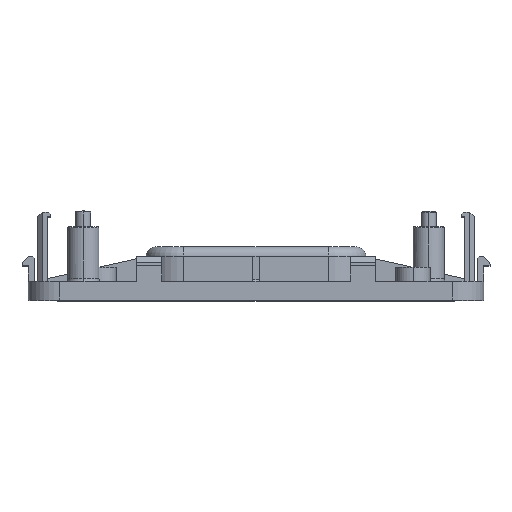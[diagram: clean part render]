
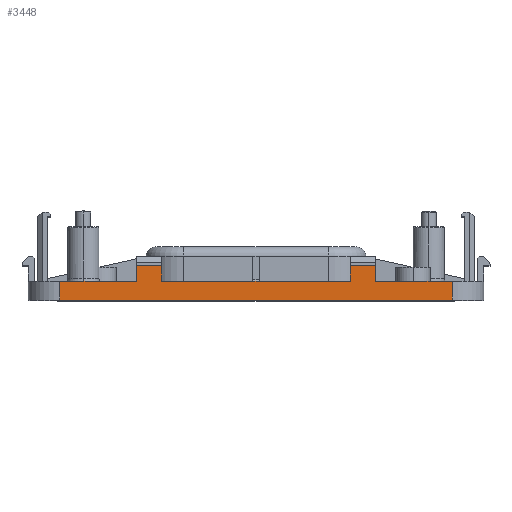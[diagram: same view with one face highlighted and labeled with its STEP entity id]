
A CAD part, top view. The second image highlights one B-rep face of the part: STEP entity #3448.
In plain terms, the highlighted planar face has unit normal (0, 0, 1).
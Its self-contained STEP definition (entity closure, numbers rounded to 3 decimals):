
#73 = VECTOR ( 'NONE', #6749, 1000. ) ;
#417 = CARTESIAN_POINT ( 'NONE',  ( 31.25, 1.5, 39.75 ) ) ;
#500 = EDGE_CURVE ( 'NONE', #6637, #5527, #6407, .T. ) ;
#1326 = CARTESIAN_POINT ( 'NONE',  ( -31.25, 3., 39.75 ) ) ;
#1389 = VECTOR ( 'NONE', #2110, 1000. ) ;
#1771 = LINE ( 'NONE', #9636, #8660 ) ;
#1778 = ORIENTED_EDGE ( 'NONE', *, *, #10224, .T. ) ;
#1842 = ORIENTED_EDGE ( 'NONE', *, *, #5565, .F. ) ;
#1959 = CARTESIAN_POINT ( 'NONE',  ( 19., 5.5, 39.75 ) ) ;
#1974 = EDGE_CURVE ( 'NONE', #6637, #8787, #6472, .T. ) ;
#1980 = PLANE ( 'NONE',  #4114 ) ;
#2017 = VECTOR ( 'NONE', #2154, 1000. ) ;
#2110 = DIRECTION ( 'NONE',  ( -1., 0., 0. ) ) ;
#2154 = DIRECTION ( 'NONE',  ( 0., 1., 0. ) ) ;
#2155 = ORIENTED_EDGE ( 'NONE', *, *, #6208, .T. ) ;
#2156 = CARTESIAN_POINT ( 'NONE',  ( -31.25, 0., 39.75 ) ) ;
#2257 = CARTESIAN_POINT ( 'NONE',  ( -19., 5.5, 39.75 ) ) ;
#2517 = CARTESIAN_POINT ( 'NONE',  ( -15., 1.5, 39.75 ) ) ;
#2607 = CARTESIAN_POINT ( 'NONE',  ( -31.25, 3., 39.75 ) ) ;
#2617 = CARTESIAN_POINT ( 'NONE',  ( 19., 3., 39.75 ) ) ;
#2779 = CARTESIAN_POINT ( 'NONE',  ( -15., 5.5, 39.75 ) ) ;
#2826 = ORIENTED_EDGE ( 'NONE', *, *, #8767, .T. ) ;
#2960 = FACE_OUTER_BOUND ( 'NONE', #3896, .T. ) ;
#3091 = VERTEX_POINT ( 'NONE', #8427 ) ;
#3093 = LINE ( 'NONE', #6271, #4371 ) ;
#3132 = LINE ( 'NONE', #6305, #2017 ) ;
#3239 = ORIENTED_EDGE ( 'NONE', *, *, #8583, .F. ) ;
#3435 = CARTESIAN_POINT ( 'NONE',  ( -19., 5.5, 39.75 ) ) ;
#3448 = ADVANCED_FACE ( 'NONE', ( #2960 ), #1980, .F. ) ;
#3468 = DIRECTION ( 'NONE',  ( 0., 1., 0. ) ) ;
#3479 = ORIENTED_EDGE ( 'NONE', *, *, #4954, .F. ) ;
#3546 = VECTOR ( 'NONE', #6747, 1000. ) ;
#3562 = VECTOR ( 'NONE', #7977, 1000. ) ;
#3565 = LINE ( 'NONE', #5958, #73 ) ;
#3590 = DIRECTION ( 'NONE',  ( 0., 0., -1. ) ) ;
#3616 = LINE ( 'NONE', #6057, #3546 ) ;
#3896 = EDGE_LOOP ( 'NONE', ( #1842, #1778, #4379, #3239, #7846, #9495, #2155, #3479, #7993, #4151, #2826, #6569 ) ) ;
#3936 = VECTOR ( 'NONE', #5690, 1000. ) ;
#4044 = CARTESIAN_POINT ( 'NONE',  ( -15., 3., 39.75 ) ) ;
#4083 = LINE ( 'NONE', #9036, #4714 ) ;
#4114 = AXIS2_PLACEMENT_3D ( 'NONE', #417, #3590, #5983 ) ;
#4151 = ORIENTED_EDGE ( 'NONE', *, *, #7663, .T. ) ;
#4371 = VECTOR ( 'NONE', #7107, 1000. ) ;
#4379 = ORIENTED_EDGE ( 'NONE', *, *, #8877, .F. ) ;
#4659 = VERTEX_POINT ( 'NONE', #9358 ) ;
#4714 = VECTOR ( 'NONE', #3468, 1000. ) ;
#4792 = DIRECTION ( 'NONE',  ( 1., 0., 0. ) ) ;
#4864 = LINE ( 'NONE', #2517, #3936 ) ;
#4923 = CARTESIAN_POINT ( 'NONE',  ( 15., 5.5, 39.75 ) ) ;
#4945 = CARTESIAN_POINT ( 'NONE',  ( 15., 3., 39.75 ) ) ;
#4954 = EDGE_CURVE ( 'NONE', #3091, #4659, #3565, .T. ) ;
#5410 = VECTOR ( 'NONE', #4792, 1000. ) ;
#5527 = VERTEX_POINT ( 'NONE', #8421 ) ;
#5565 = EDGE_CURVE ( 'NONE', #8095, #5800, #3093, .T. ) ;
#5690 = DIRECTION ( 'NONE',  ( 0., 1., 0. ) ) ;
#5771 = VECTOR ( 'NONE', #9859, 1000. ) ;
#5786 = CARTESIAN_POINT ( 'NONE',  ( -31.25, 1.5, 39.75 ) ) ;
#5800 = VERTEX_POINT ( 'NONE', #4945 ) ;
#5958 = CARTESIAN_POINT ( 'NONE',  ( 31.25, 1.5, 39.75 ) ) ;
#5983 = DIRECTION ( 'NONE',  ( -1., 0., 0. ) ) ;
#6057 = CARTESIAN_POINT ( 'NONE',  ( 31.25, 0., 39.75 ) ) ;
#6208 = EDGE_CURVE ( 'NONE', #8787, #4659, #3616, .T. ) ;
#6271 = CARTESIAN_POINT ( 'NONE',  ( -31.25, 3., 39.75 ) ) ;
#6305 = CARTESIAN_POINT ( 'NONE',  ( 19., 1.5, 39.75 ) ) ;
#6407 = LINE ( 'NONE', #2607, #5410 ) ;
#6472 = LINE ( 'NONE', #5786, #5771 ) ;
#6569 = ORIENTED_EDGE ( 'NONE', *, *, #7698, .F. ) ;
#6637 = VERTEX_POINT ( 'NONE', #1326 ) ;
#6747 = DIRECTION ( 'NONE',  ( 1., 0., 0. ) ) ;
#6749 = DIRECTION ( 'NONE',  ( 0., -1., 0. ) ) ;
#6800 = LINE ( 'NONE', #1959, #1389 ) ;
#7044 = LINE ( 'NONE', #2257, #3562 ) ;
#7107 = DIRECTION ( 'NONE',  ( 1., 0., 0. ) ) ;
#7582 = CARTESIAN_POINT ( 'NONE',  ( -31.25, 3., 39.75 ) ) ;
#7663 = EDGE_CURVE ( 'NONE', #7763, #8536, #3132, .T. ) ;
#7698 = EDGE_CURVE ( 'NONE', #5800, #8613, #1771, .T. ) ;
#7763 = VERTEX_POINT ( 'NONE', #2617 ) ;
#7846 = ORIENTED_EDGE ( 'NONE', *, *, #500, .F. ) ;
#7977 = DIRECTION ( 'NONE',  ( 1., 0., 0. ) ) ;
#7990 = CARTESIAN_POINT ( 'NONE',  ( 19., 5.5, 39.75 ) ) ;
#7993 = ORIENTED_EDGE ( 'NONE', *, *, #10272, .F. ) ;
#8095 = VERTEX_POINT ( 'NONE', #4044 ) ;
#8421 = CARTESIAN_POINT ( 'NONE',  ( -19., 3., 39.75 ) ) ;
#8427 = CARTESIAN_POINT ( 'NONE',  ( 31.25, 3., 39.75 ) ) ;
#8536 = VERTEX_POINT ( 'NONE', #7990 ) ;
#8583 = EDGE_CURVE ( 'NONE', #5527, #9936, #4083, .T. ) ;
#8613 = VERTEX_POINT ( 'NONE', #4923 ) ;
#8660 = VECTOR ( 'NONE', #8809, 1000. ) ;
#8757 = VECTOR ( 'NONE', #10018, 1000. ) ;
#8767 = EDGE_CURVE ( 'NONE', #8536, #8613, #6800, .T. ) ;
#8787 = VERTEX_POINT ( 'NONE', #2156 ) ;
#8809 = DIRECTION ( 'NONE',  ( 0., 1., 0. ) ) ;
#8877 = EDGE_CURVE ( 'NONE', #9936, #9267, #7044, .T. ) ;
#9036 = CARTESIAN_POINT ( 'NONE',  ( -19., 1.5, 39.75 ) ) ;
#9267 = VERTEX_POINT ( 'NONE', #2779 ) ;
#9358 = CARTESIAN_POINT ( 'NONE',  ( 31.25, 0., 39.75 ) ) ;
#9495 = ORIENTED_EDGE ( 'NONE', *, *, #1974, .T. ) ;
#9546 = LINE ( 'NONE', #7582, #8757 ) ;
#9636 = CARTESIAN_POINT ( 'NONE',  ( 15., 1.5, 39.75 ) ) ;
#9859 = DIRECTION ( 'NONE',  ( 0., -1., 0. ) ) ;
#9936 = VERTEX_POINT ( 'NONE', #3435 ) ;
#10018 = DIRECTION ( 'NONE',  ( 1., 0., 0. ) ) ;
#10224 = EDGE_CURVE ( 'NONE', #8095, #9267, #4864, .T. ) ;
#10272 = EDGE_CURVE ( 'NONE', #7763, #3091, #9546, .T. ) ;
